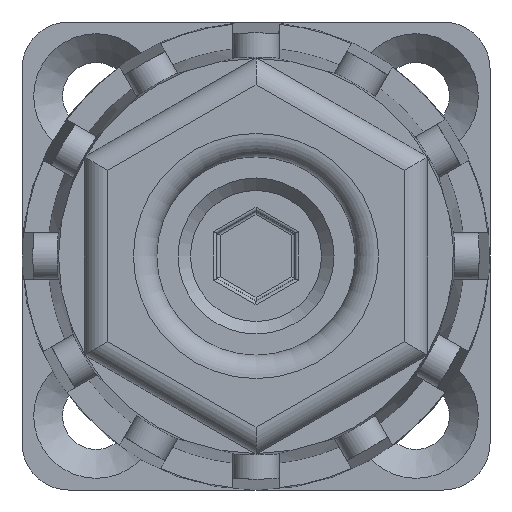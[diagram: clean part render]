
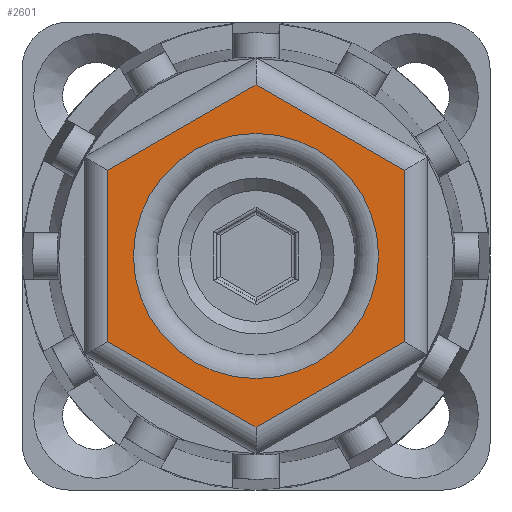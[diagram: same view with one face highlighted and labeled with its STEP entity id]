
A CAD part, front view. The second image highlights one B-rep face of the part: STEP entity #2601.
In plain terms, the highlighted planar face has unit normal (0, -1, 0).
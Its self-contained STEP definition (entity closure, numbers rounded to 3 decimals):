
#263=CIRCLE('',#2889,7.855);
#928=ORIENTED_EDGE('',*,*,#1313,.F.);
#929=ORIENTED_EDGE('',*,*,#1314,.T.);
#930=ORIENTED_EDGE('',*,*,#1315,.T.);
#931=ORIENTED_EDGE('',*,*,#1316,.T.);
#932=ORIENTED_EDGE('',*,*,#1317,.T.);
#933=ORIENTED_EDGE('',*,*,#1318,.T.);
#934=ORIENTED_EDGE('',*,*,#1319,.T.);
#1313=EDGE_CURVE('',#1559,#1559,#263,.T.);
#1314=EDGE_CURVE('',#1560,#1561,#1749,.F.);
#1315=EDGE_CURVE('',#1561,#1562,#1750,.F.);
#1316=EDGE_CURVE('',#1562,#1563,#1751,.F.);
#1317=EDGE_CURVE('',#1563,#1564,#1752,.F.);
#1318=EDGE_CURVE('',#1564,#1565,#1753,.F.);
#1319=EDGE_CURVE('',#1565,#1560,#1754,.F.);
#1559=VERTEX_POINT('',#4629);
#1560=VERTEX_POINT('',#4631);
#1561=VERTEX_POINT('',#4632);
#1562=VERTEX_POINT('',#4634);
#1563=VERTEX_POINT('',#4636);
#1564=VERTEX_POINT('',#4638);
#1565=VERTEX_POINT('',#4640);
#1749=LINE('',#4630,#1927);
#1750=LINE('',#4633,#1928);
#1751=LINE('',#4635,#1929);
#1752=LINE('',#4637,#1930);
#1753=LINE('',#4639,#1931);
#1754=LINE('',#4641,#1932);
#1927=VECTOR('',#3564,1000.);
#1928=VECTOR('',#3565,1000.);
#1929=VECTOR('',#3566,1000.);
#1930=VECTOR('',#3567,1000.);
#1931=VECTOR('',#3568,1000.);
#1932=VECTOR('',#3569,1000.);
#2115=EDGE_LOOP('',(#928));
#2116=EDGE_LOOP('',(#929,#930,#931,#932,#933,#934));
#2329=FACE_BOUND('',#2115,.T.);
#2330=FACE_BOUND('',#2116,.T.);
#2454=PLANE('',#2888);
#2601=ADVANCED_FACE('',(#2329,#2330),#2454,.F.);
#2888=AXIS2_PLACEMENT_3D('',#4627,#3560,#3561);
#2889=AXIS2_PLACEMENT_3D('',#4628,#3562,#3563);
#3560=DIRECTION('',(0.,1.,0.));
#3561=DIRECTION('',(0.,0.,1.));
#3562=DIRECTION('',(0.,-1.,0.));
#3563=DIRECTION('',(1.,0.,0.));
#3564=DIRECTION('',(0.866,0.,0.5));
#3565=DIRECTION('',(0.,0.,1.));
#3566=DIRECTION('',(-0.866,0.,0.5));
#3567=DIRECTION('',(-0.866,0.,-0.5));
#3568=DIRECTION('',(0.,0.,-1.));
#3569=DIRECTION('',(0.866,0.,-0.5));
#4627=CARTESIAN_POINT('',(0.,-10.,0.));
#4628=CARTESIAN_POINT('',(0.,-10.,0.));
#4629=CARTESIAN_POINT('',(7.855,-10.,0.));
#4630=CARTESIAN_POINT('',(-10.25,-10.,5.052));
#4631=CARTESIAN_POINT('',(0.,-10.,10.97));
#4632=CARTESIAN_POINT('',(-9.5,-10.,5.485));
#4633=CARTESIAN_POINT('',(-9.5,-10.,-6.351));
#4634=CARTESIAN_POINT('',(-9.5,-10.,-5.485));
#4635=CARTESIAN_POINT('',(0.75,-10.,-11.403));
#4636=CARTESIAN_POINT('',(0.,-10.,-10.97));
#4637=CARTESIAN_POINT('',(10.25,-10.,-5.052));
#4638=CARTESIAN_POINT('',(9.5,-10.,-5.485));
#4639=CARTESIAN_POINT('',(9.5,-10.,6.351));
#4640=CARTESIAN_POINT('',(9.5,-10.,5.485));
#4641=CARTESIAN_POINT('',(-0.75,-10.,11.403));
